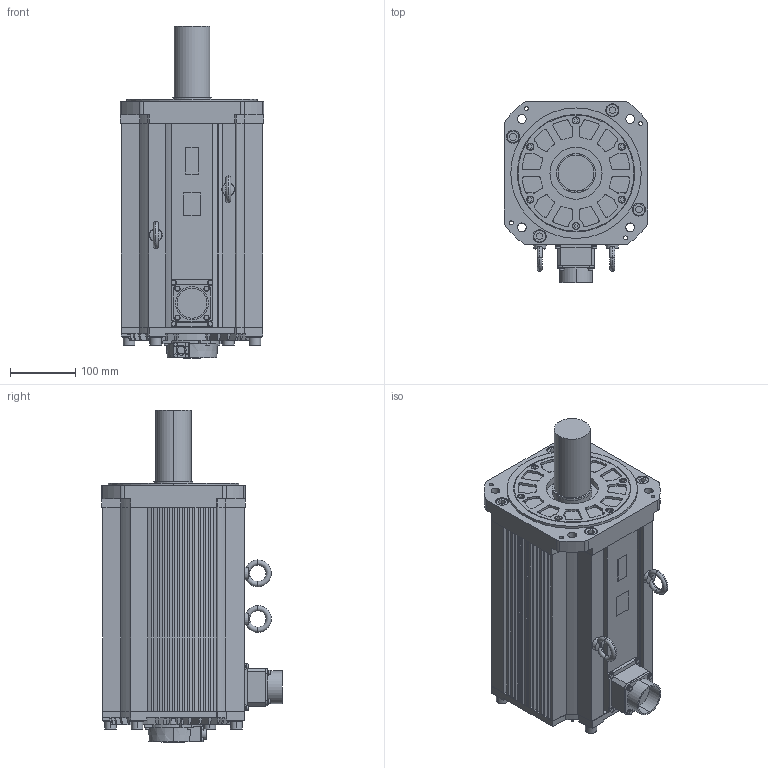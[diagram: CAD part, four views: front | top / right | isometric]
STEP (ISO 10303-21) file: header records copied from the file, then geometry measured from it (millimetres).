
FILE_DESCRIPTION (( 'STEP AP203' ), '1' );
FILE_NAME ('sgmgv_1e__a21.STEP', '2010-08-18T05:30:41', ( '匠エンジニアリング山之内' ), ( 'TAKUMI-Engniaring' ), 'SwSTEP 2.0', 'SolidWorks 2006303', '' );
FILE_SCHEMA (( 'CONFIG_CONTROL_DESIGN' ));
Length unit declared in the file: millimetre
Products named in the file (3): sgmgv_1e__a21_eyebolt; sgmgv_1e__a21; sgmgv_1e__a21_base
Assembly tree (3 placements, depth 2):
  sgmgv_1e__a21
    sgmgv_1e__a21_base
    sgmgv_1e__a21_eyebolt  x2
Bounding box: 220 x 277.08 x 509.1 mm (x, y, z)
Volume: 14766336.9 mm3; surface area: 729638.7 mm2
Topology: 3 solids, 3 shells, 1232 faces, 3119 edges, 2032 vertices
Faces by surface type: plane 768, cylinder 386, cone 70, torus 8
Entity records: 37273 total; most frequent: CARTESIAN_POINT 6991, DIRECTION 6247, ORIENTED_EDGE 6184, EDGE_CURVE 3092, AXIS2_PLACEMENT_3D 2111, VECTOR 2025, LINE 2025, VERTEX_POINT 2016
